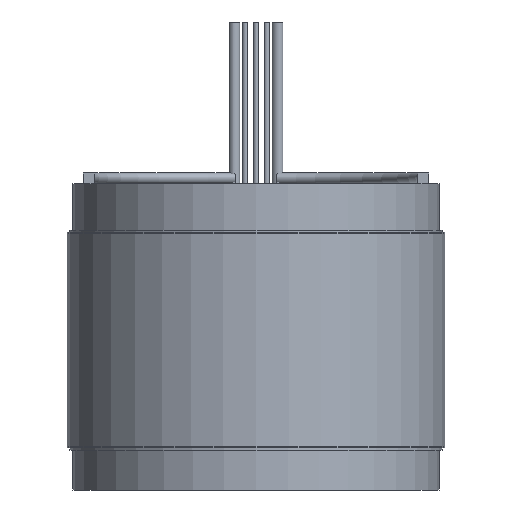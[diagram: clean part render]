
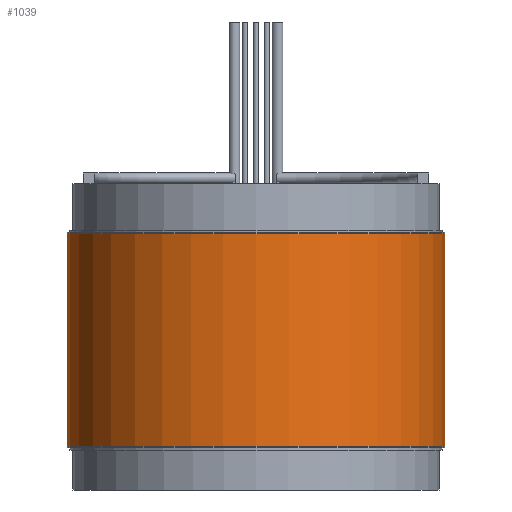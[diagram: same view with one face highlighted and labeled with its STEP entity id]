
A CAD part, front view. The second image highlights one B-rep face of the part: STEP entity #1039.
In plain terms, the highlighted cylindrical face has radius 44.45 mm (diameter 88.9 mm), a full revolution.
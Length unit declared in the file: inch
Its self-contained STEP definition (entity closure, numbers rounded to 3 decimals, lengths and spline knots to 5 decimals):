
#5 = EDGE_CURVE ( 'NONE', #1020, #1020, #555, .T. ) ;
#41 = CARTESIAN_POINT ( 'NONE',  ( 0., 0., 0.986 ) ) ;
#54 = EDGE_LOOP ( 'NONE', ( #872 ) ) ;
#318 = DIRECTION ( 'NONE',  ( 1., 0., 0. ) ) ;
#333 = CARTESIAN_POINT ( 'NONE',  ( 1.75, 0., 0.986 ) ) ;
#424 = AXIS2_PLACEMENT_3D ( 'NONE', #977, #1242, #850 ) ;
#527 = CYLINDRICAL_SURFACE ( 'NONE', #424, 1.75 ) ;
#555 = CIRCLE ( 'NONE', #877, 1.75 ) ;
#611 = FACE_OUTER_BOUND ( 'NONE', #54, .T. ) ;
#612 = CIRCLE ( 'NONE', #1412, 1.75 ) ;
#660 = ORIENTED_EDGE ( 'NONE', *, *, #5, .F. ) ;
#739 = EDGE_LOOP ( 'NONE', ( #660 ) ) ;
#836 = EDGE_CURVE ( 'NONE', #1564, #1564, #612, .T. ) ;
#850 = DIRECTION ( 'NONE',  ( 1., 0., 0. ) ) ;
#857 = FACE_OUTER_BOUND ( 'NONE', #739, .T. ) ;
#872 = ORIENTED_EDGE ( 'NONE', *, *, #836, .T. ) ;
#877 = AXIS2_PLACEMENT_3D ( 'NONE', #41, #1512, #1379 ) ;
#977 = CARTESIAN_POINT ( 'NONE',  ( 0., 0., -1.02 ) ) ;
#1020 = VERTEX_POINT ( 'NONE', #333 ) ;
#1039 = ADVANCED_FACE ( 'NONE', ( #857, #611 ), #527, .T. ) ;
#1114 = CARTESIAN_POINT ( 'NONE',  ( 0., 0., -0.986 ) ) ;
#1242 = DIRECTION ( 'NONE',  ( 0., 0., 1. ) ) ;
#1263 = DIRECTION ( 'NONE',  ( 0., 0., 1. ) ) ;
#1379 = DIRECTION ( 'NONE',  ( 1., 0., 0. ) ) ;
#1406 = CARTESIAN_POINT ( 'NONE',  ( 1.75, 0., -0.986 ) ) ;
#1412 = AXIS2_PLACEMENT_3D ( 'NONE', #1114, #1263, #318 ) ;
#1512 = DIRECTION ( 'NONE',  ( 0., 0., 1. ) ) ;
#1564 = VERTEX_POINT ( 'NONE', #1406 ) ;
